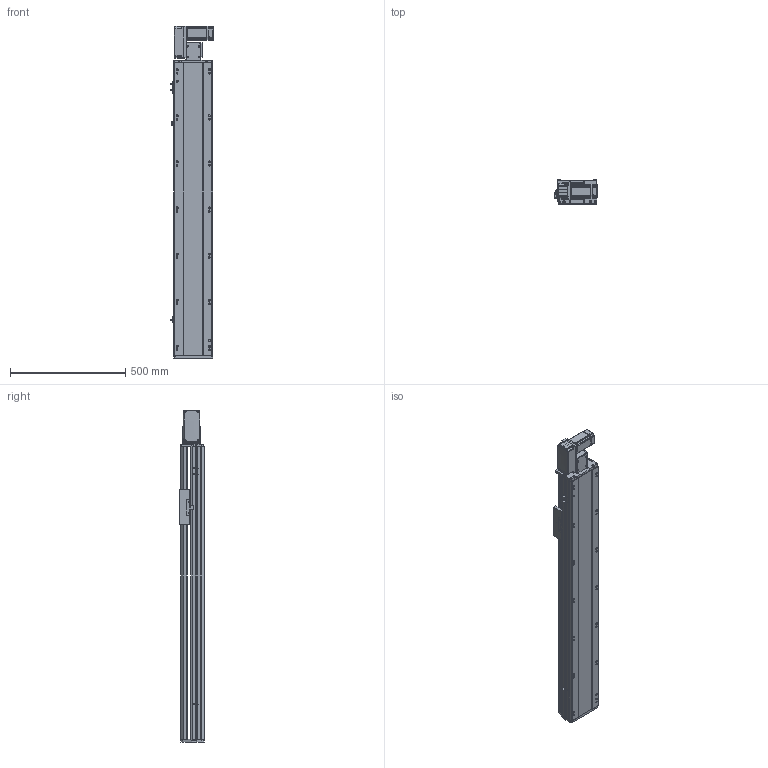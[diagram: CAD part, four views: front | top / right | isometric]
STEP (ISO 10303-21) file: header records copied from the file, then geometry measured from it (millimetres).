
FILE_DESCRIPTION (( 'STEP AP214' ), '1' );
FILE_NAME ('RTB17S-XX-1000-L-M40-C4.STEP', '2025-12-11T05:35:44', ( '' ), ( '' ), 'SwSTEP 2.0', 'SolidWorks 2018', '' );
FILE_SCHEMA (( 'AUTOMOTIVE_DESIGN' ));
Length unit declared in the file: millimetre
Products named in the file (14): RMP17S-L-014-T20--皮带座^RTB17S-L-皮带座装配-400W_RTB17S-XX-XX-L-M40-C4（方程式）; OMRON EE-SX672 传感器^RTB17S-XX-XX-L-M40-C4（方程式）; RTB17S-XX-1000-L-M40-C4; 400W伺服电机^RTB17S-XX-XX-L-M40-C4（方程式）; RTB14-L-018P^RTB17S-L-皮带座装配-400W_RTB17S-XX-XX-L-M40-C4（方程式）; RTB17S-L-001侧面板^RTB17S-XX-XX-L-M40-C4（方程式）; RTB17S-L-007上盖^RTB17S-XX-XX-L-M40-C4（方程式）; RTB14-L-005P--轴承塑胶压盖^RTB17S-L-皮带座装配-400W_RTB17S-XX-XX-L-M40-C4（方程式）; RTB14-L-017P^RTB17S-L-皮带座装配-400W_RTB17S-XX-XX-L-M40-C4（方程式）; RTB17S-L-004丝杆螺母连接座^RTB17S-XX-XX-L-M40-C4（方程式）; RTB17S-L-皮带座装配-400W^RTB17S-XX-XX-L-M40-C4（方程式）; RTB17-R-011底座^RTB17S-XX-XX-L-M40-C4（方程式）; RTH13-BL-012感应片外置^RTB17S-XX-XX-L-M40-C4（方程式）; RTB14-L-008-M20--电机板^RTB17S-L-皮带座装配-400W_RTB17S-XX-XX-L-M40-C4（方程式）
Assembly tree (16 placements, depth 3):
  RTB17S-XX-1000-L-M40-C4
    RTB17-R-011底座^RTB17S-XX-XX-L-M40-C4（方程式）
    RTB17S-L-007上盖^RTB17S-XX-XX-L-M40-C4（方程式）
    OMRON EE-SX672 传感器^RTB17S-XX-XX-L-M40-C4（方程式）  x3
    RTB17S-L-001侧面板^RTB17S-XX-XX-L-M40-C4（方程式）
    400W伺服电机^RTB17S-XX-XX-L-M40-C4（方程式）
    RTB17S-L-004丝杆螺母连接座^RTB17S-XX-XX-L-M40-C4（方程式）
    RTH13-BL-012感应片外置^RTB17S-XX-XX-L-M40-C4（方程式）
    RTB17S-L-皮带座装配-400W^RTB17S-XX-XX-L-M40-C4（方程式）
      RMP17S-L-014-T20--皮带座^RTB17S-L-皮带座装配-400W_RTB17S-XX-XX-L-M40-C4（方程式）
      RTB14-L-005P--轴承塑胶压盖^RTB17S-L-皮带座装配-400W_RTB17S-XX-XX-L-M40-C4（方程式）
      RTB14-L-008-M20--电机板^RTB17S-L-皮带座装配-400W_RTB17S-XX-XX-L-M40-C4（方程式）
      RTB14-L-017P^RTB17S-L-皮带座装配-400W_RTB17S-XX-XX-L-M40-C4（方程式）  x2
      RTB14-L-018P^RTB17S-L-皮带座装配-400W_RTB17S-XX-XX-L-M40-C4（方程式）
Bounding box: 186 x 108 x 1441 mm (x, y, z)
Volume: 12376987.7 mm3; surface area: 1497165.5 mm2
Topology: 15 solids, 15 shells, 2205 faces, 6087 edges, 3969 vertices
Faces by surface type: plane 1068, cylinder 689, bspline 301, cone 139, torus 8
Entity records: 62633 total; most frequent: CARTESIAN_POINT 17492, ORIENTED_EDGE 9018, DIRECTION 8396, EDGE_CURVE 4509, VERTEX_POINT 2957, AXIS2_PLACEMENT_3D 2887, VECTOR 2622, LINE 2622
